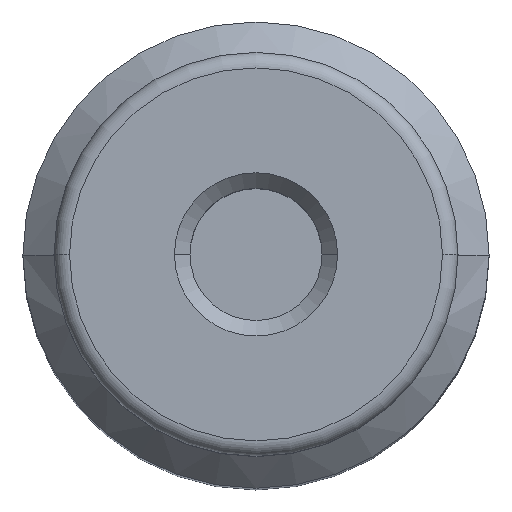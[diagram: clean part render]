
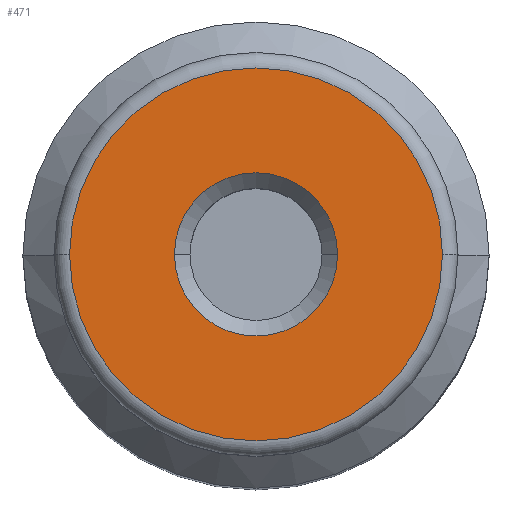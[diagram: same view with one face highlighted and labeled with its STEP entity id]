
A CAD part, top view. The second image highlights one B-rep face of the part: STEP entity #471.
In plain terms, the highlighted planar face has unit normal (0, 0, 1).
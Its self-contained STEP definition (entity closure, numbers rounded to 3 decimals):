
#62=AXIS2_PLACEMENT_3D('Circle Axis2P3D',#60,#61,$) ;
#84=AXIS2_PLACEMENT_3D('Circle Axis2P3D',#82,#83,$) ;
#447=AXIS2_PLACEMENT_3D('Plane Axis2P3D',#444,#445,#446) ;
#455=AXIS2_PLACEMENT_3D('Circle Axis2P3D',#453,#454,$) ;
#464=AXIS2_PLACEMENT_3D('Circle Axis2P3D',#462,#463,$) ;
#41=CARTESIAN_POINT('Vertex',(-12.,0.,96.2)) ;
#57=CARTESIAN_POINT('Vertex',(12.,0.,96.2)) ;
#60=CARTESIAN_POINT('Axis2P3D Location',(0.,0.,96.2)) ;
#82=CARTESIAN_POINT('Axis2P3D Location',(0.,0.,96.2)) ;
#444=CARTESIAN_POINT('Axis2P3D Location',(0.,0.,96.2)) ;
#453=CARTESIAN_POINT('Axis2P3D Location',(0.,0.,96.2)) ;
#457=CARTESIAN_POINT('Vertex',(5.25,0.,96.2)) ;
#459=CARTESIAN_POINT('Vertex',(-5.25,0.,96.2)) ;
#462=CARTESIAN_POINT('Axis2P3D Location',(0.,0.,96.2)) ;
#61=DIRECTION('Axis2P3D Direction',(0.,-0.,1.)) ;
#83=DIRECTION('Axis2P3D Direction',(-0.,0.,1.)) ;
#445=DIRECTION('Axis2P3D Direction',(0.,0.,1.)) ;
#446=DIRECTION('Axis2P3D XDirection',(1.,0.,0.)) ;
#454=DIRECTION('Axis2P3D Direction',(0.,0.,1.)) ;
#463=DIRECTION('Axis2P3D Direction',(0.,0.,1.)) ;
#450=ORIENTED_EDGE('',*,*,#64,.T.) ;
#451=ORIENTED_EDGE('',*,*,#86,.T.) ;
#468=ORIENTED_EDGE('',*,*,#461,.F.) ;
#469=ORIENTED_EDGE('',*,*,#466,.F.) ;
#470=FACE_BOUND('',#467,.T.) ;
#471=ADVANCED_FACE('\X2\96F64EF651E04F554F53\X0\',(#452,#470),#448,.T.) ;
#63=CIRCLE('generated circle',#62,12.) ;
#85=CIRCLE('generated circle',#84,12.) ;
#456=CIRCLE('generated circle',#455,5.25) ;
#465=CIRCLE('generated circle',#464,5.25) ;
#64=EDGE_CURVE('',#42,#58,#63,.T.) ;
#86=EDGE_CURVE('',#58,#42,#85,.T.) ;
#461=EDGE_CURVE('',#458,#460,#456,.T.) ;
#466=EDGE_CURVE('',#460,#458,#465,.T.) ;
#449=EDGE_LOOP('',(#450,#451)) ;
#467=EDGE_LOOP('',(#468,#469)) ;
#452=FACE_OUTER_BOUND('',#449,.T.) ;
#448=PLANE('',#447) ;
#42=VERTEX_POINT('',#41) ;
#58=VERTEX_POINT('',#57) ;
#458=VERTEX_POINT('',#457) ;
#460=VERTEX_POINT('',#459) ;
